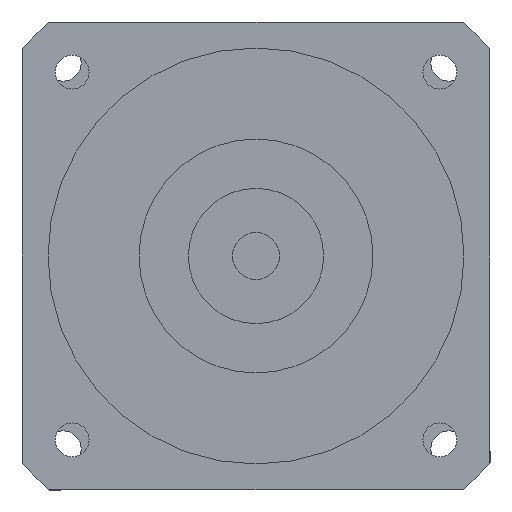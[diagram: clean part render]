
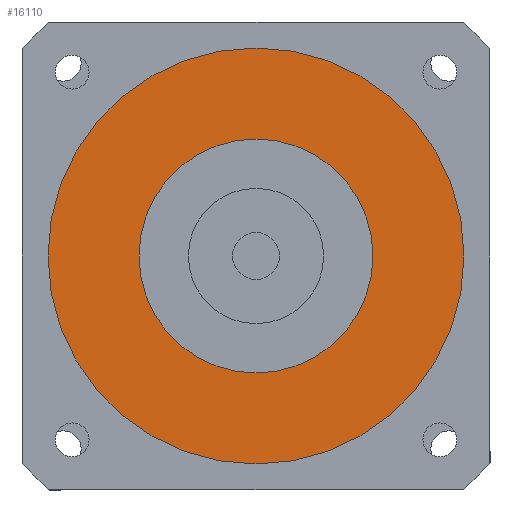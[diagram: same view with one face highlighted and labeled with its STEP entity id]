
A CAD part, left-side view. The second image highlights one B-rep face of the part: STEP entity #16110.
In plain terms, the highlighted planar face has unit normal (-1, 0, 0) as drawn and (0, 0, -1) by its records, which use the part's own axes.
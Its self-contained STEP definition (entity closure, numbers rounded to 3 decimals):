
#15680=CARTESIAN_POINT('',(0.,0.,
-114.));
#15690=DIRECTION('',(0.,0.,1.));
#15700=DIRECTION('',(-1.,0.,0.));
#15710=AXIS2_PLACEMENT_3D('',#15680,#15690,#15700);
#15720=PLANE('',#15710);
#15730=CARTESIAN_POINT('',(0.,0.,
-114.));
#15740=DIRECTION('',(0.,0.,1.));
#15750=DIRECTION('',(0.,-1.,0.));
#15760=AXIS2_PLACEMENT_3D('',#15730,#15740,#15750);
#15770=CIRCLE('',#15760,40.);
#15780=CARTESIAN_POINT('',(0.,-40.,-114.));
#15790=VERTEX_POINT('',#15780);
#15800=CARTESIAN_POINT('',(40.,0.,-114.));
#15810=VERTEX_POINT('',#15800);
#15820=EDGE_CURVE('',#15790,#15810,#15770,.T.);
#15830=ORIENTED_EDGE('',*,*,#15820,.F.);
#15840=CARTESIAN_POINT('',(-40.,0.,-114.));
#15850=VERTEX_POINT('',#15840);
#15860=EDGE_CURVE('',#15810,#15850,#15770,.T.);
#15870=ORIENTED_EDGE('',*,*,#15860,.F.);
#15880=EDGE_CURVE('',#15850,#15790,#15770,.T.);
#15890=ORIENTED_EDGE('',*,*,#15880,.F.);
#15900=EDGE_LOOP('',(#15890,#15870,#15830));
#15910=FACE_OUTER_BOUND('',#15900,.T.);
#15920=CARTESIAN_POINT('',(0.,0.,
-114.));
#15930=DIRECTION('',(0.,0.,1.));
#15940=DIRECTION('',(0.,-1.,0.));
#15950=AXIS2_PLACEMENT_3D('',#15920,#15930,#15940);
#15960=CIRCLE('',#15950,22.5);
#15970=CARTESIAN_POINT('',(22.5,0.,-114.));
#15980=VERTEX_POINT('',#15970);
#15990=CARTESIAN_POINT('',(-22.5,0.,-114.));
#16000=VERTEX_POINT('',#15990);
#16010=EDGE_CURVE('',#15980,#16000,#15960,.T.);
#16020=ORIENTED_EDGE('',*,*,#16010,.T.);
#16030=CARTESIAN_POINT('',(0.,-22.5,-114.));
#16040=VERTEX_POINT('',#16030);
#16050=EDGE_CURVE('',#16040,#15980,#15960,.T.);
#16060=ORIENTED_EDGE('',*,*,#16050,.T.);
#16070=EDGE_CURVE('',#16000,#16040,#15960,.T.);
#16080=ORIENTED_EDGE('',*,*,#16070,.T.);
#16090=EDGE_LOOP('',(#16080,#16060,#16020));
#16100=FACE_BOUND('',#16090,.T.);
#16110=ADVANCED_FACE('',(#15910,#16100),#15720,.F.);
